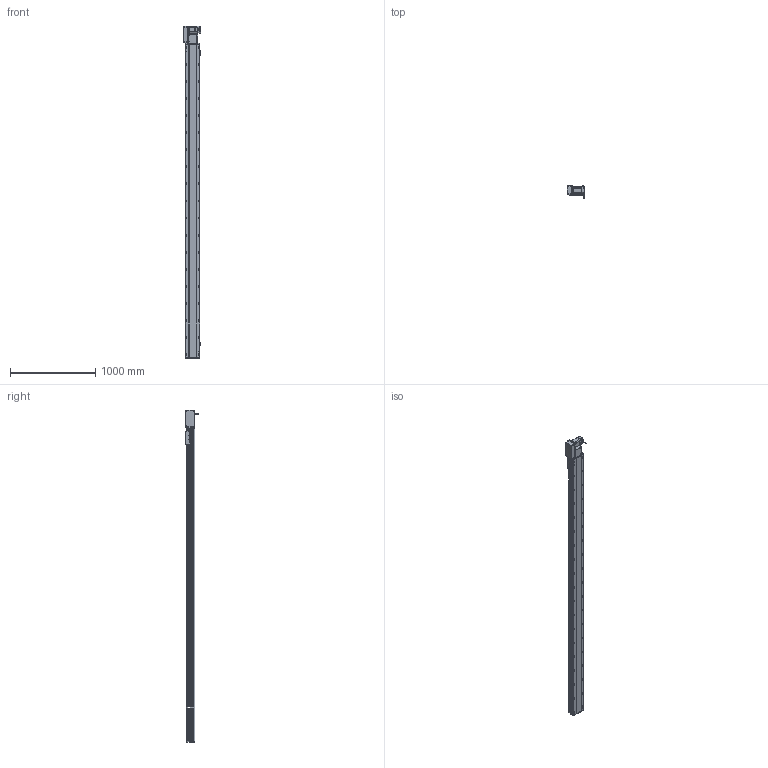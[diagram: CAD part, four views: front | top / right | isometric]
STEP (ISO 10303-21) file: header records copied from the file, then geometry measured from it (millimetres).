
FILE_DESCRIPTION (( 'STEP AP214' ), '1' );
FILE_NAME ('RTB17S-XX-3400-L-M75-C4.STEP', '2025-12-12T00:27:12', ( '' ), ( '' ), 'SwSTEP 2.0', 'SolidWorks 2018', '' );
FILE_SCHEMA (( 'AUTOMOTIVE_DESIGN' ));
Length unit declared in the file: millimetre
Products named in the file (15): RTB22S-GY-017P^RTB17S-L-々湍釱蚾饜-750W_RTB17S-XX-XX-L-M75-C4; RTH13-BL-012覜茼え俋离^RTB17S-賑釱_RTB17S-XX-XX-L-M75-C4; RTB17S-L-007奻裔^RTB17S-XX-XX-L-M75-C4; RTB17S-L-々湍釱蚾饜-750W^RTB17S-XX-XX-L-M75-C4; RTB17S-L-004-賑釱^RTB17S-賑釱_RTB17S-XX-XX-L-M75-C4; RTB17S-XX-3400-L-M75-C4; 750W萇儂^RTB17S-XX-XX-L-M75-C4; RMP17S-L-014-T20-P75--々湍釱^RTB17S-L-々湍釱蚾饜-750W_RTB17S-XX-XX-L-M75-C4; RTB17S-賑釱^RTB17S-XX-XX-L-M75-C4; RTB22S-GY-005P^RTB17S-L-々湍釱蚾饜-750W_RTB17S-XX-XX-L-M75-C4; EE672^RTB17S-XX-XX-L-M75-C4; RTB17S-L-001-耜醱啣^RTB17S-XX-XX-L-M75-C4; RTB17-R-011菁釱^RTB17S-XX-XX-L-M75-C4; RTB22S-GY-018P^RTB17S-L-々湍釱蚾饜-750W_RTB17S-XX-XX-L-M75-C4; RTB22S-GY-008-M75--萇儂啣^RTB17S-L-々湍釱蚾饜-750W_RTB17S-XX-XX-L-M75-C4
Assembly tree (17 placements, depth 3):
  RTB17S-XX-3400-L-M75-C4
    RTB17-R-011菁釱^RTB17S-XX-XX-L-M75-C4
    EE672^RTB17S-XX-XX-L-M75-C4  x3
    RTB17S-L-001-耜醱啣^RTB17S-XX-XX-L-M75-C4
    RTB17S-賑釱^RTB17S-XX-XX-L-M75-C4
      RTB17S-L-004-賑釱^RTB17S-賑釱_RTB17S-XX-XX-L-M75-C4
      RTH13-BL-012覜茼え俋离^RTB17S-賑釱_RTB17S-XX-XX-L-M75-C4
    RTB17S-L-007奻裔^RTB17S-XX-XX-L-M75-C4
    750W萇儂^RTB17S-XX-XX-L-M75-C4
    RTB17S-L-々湍釱蚾饜-750W^RTB17S-XX-XX-L-M75-C4
      RMP17S-L-014-T20-P75--々湍釱^RTB17S-L-々湍釱蚾饜-750W_RTB17S-XX-XX-L-M75-C4
      RTB22S-GY-005P^RTB17S-L-々湍釱蚾饜-750W_RTB17S-XX-XX-L-M75-C4
      RTB22S-GY-017P^RTB17S-L-々湍釱蚾饜-750W_RTB17S-XX-XX-L-M75-C4  x2
      RTB22S-GY-008-M75--萇儂啣^RTB17S-L-々湍釱蚾饜-750W_RTB17S-XX-XX-L-M75-C4
      RTB22S-GY-018P^RTB17S-L-々湍釱蚾饜-750W_RTB17S-XX-XX-L-M75-C4
Bounding box: 210.4 x 152.7 x 3899 mm (x, y, z)
Volume: 27206541.4 mm3; surface area: 5018009.9 mm2
Topology: 17 solids, 17 shells, 2281 faces, 6430 edges, 4166 vertices
Faces by surface type: plane 994, cylinder 871, bspline 294, cone 110, sphere 8, torus 4
Entity records: 67318 total; most frequent: CARTESIAN_POINT 20094, ORIENTED_EDGE 9704, DIRECTION 8942, EDGE_CURVE 4852, AXIS2_PLACEMENT_3D 3186, VERTEX_POINT 3170, VECTOR 2570, LINE 2570
